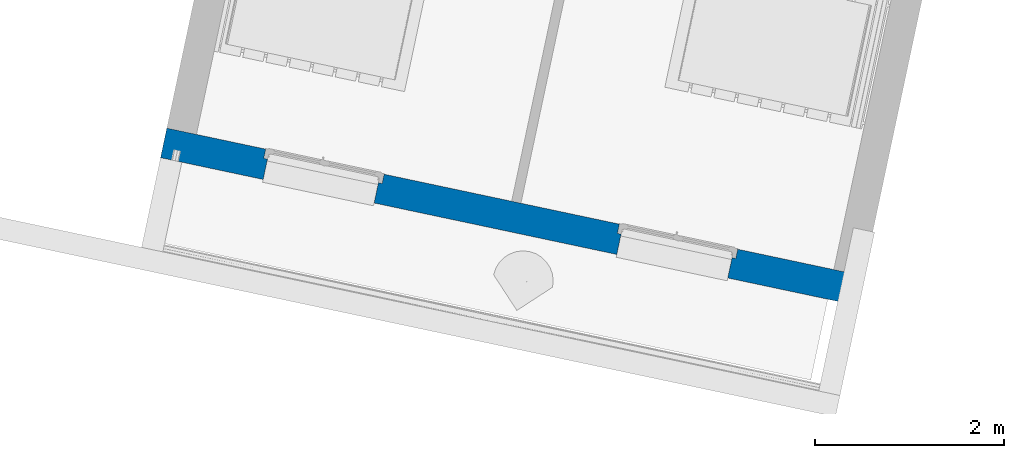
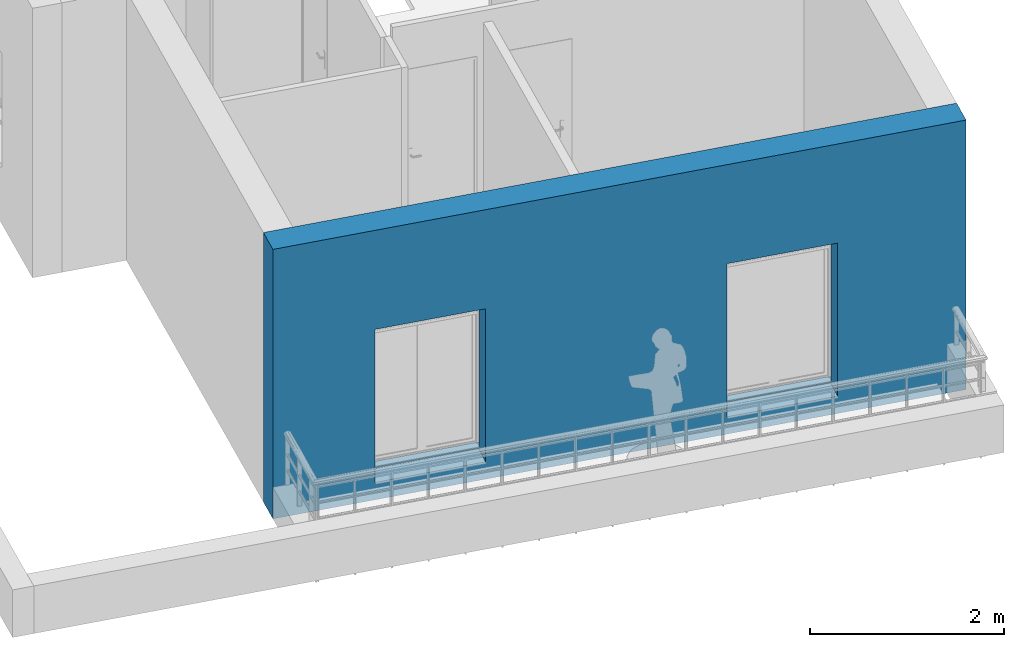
# One storey, part 2 of 18: 1 wall, 2 openings.
"""IFC2X3 building model written with IfcOpenShell, lengths in metres."""

from ifc_helpers import new_model, entity, si_unit, converted_unit, derived_unit, direction, frame, frame_2d, origin, place, context, subcontext, project, spatial, rectangle, extrude, faceted_brep, material, layer, layer_set, layer_usage, type_object, element, save


model = new_model("IFC2X3")

# Units and contexts
model_context = context("Model", 3, precision=1e-05, world=origin(), true_north=direction((6.12303176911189e-17, 1.0)))
body_context = subcontext(model_context, "Body", "Model", "MODEL_VIEW")
ifc_project = project(units=[si_unit("LENGTHUNIT", "METRE"), si_unit("AREAUNIT", "SQUARE_METRE"), si_unit("VOLUMEUNIT", "CUBIC_METRE"), converted_unit("PLANEANGLEUNIT", "DEGREE", entity("IfcRatioMeasure", 0.0174532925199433), si_unit("PLANEANGLEUNIT", "RADIAN"), dimensions=[0, 0, 0, 0, 0, 0, 0]), si_unit("MASSUNIT", "GRAM", prefix="KILO"), derived_unit("MASSDENSITYUNIT", [(si_unit("MASSUNIT", "GRAM", prefix="KILO"), 1), (si_unit("LENGTHUNIT", "METRE"), -3)]), si_unit("TIMEUNIT", "SECOND"), si_unit("FREQUENCYUNIT", "HERTZ"), si_unit("THERMODYNAMICTEMPERATUREUNIT", "DEGREE_CELSIUS"), derived_unit("THERMALTRANSMITTANCEUNIT", [(si_unit("MASSUNIT", "GRAM", prefix="KILO"), 1), (si_unit("THERMODYNAMICTEMPERATUREUNIT", "KELVIN"), -1), (si_unit("TIMEUNIT", "SECOND"), -3)]), derived_unit("VOLUMETRICFLOWRATEUNIT", [(si_unit("LENGTHUNIT", "METRE"), 3), (si_unit("TIMEUNIT", "SECOND"), -1)]), si_unit("ELECTRICCURRENTUNIT", "AMPERE"), si_unit("ELECTRICVOLTAGEUNIT", "VOLT"), si_unit("POWERUNIT", "WATT"), si_unit("FORCEUNIT", "NEWTON", prefix="KILO"), si_unit("ILLUMINANCEUNIT", "LUX"), si_unit("LUMINOUSFLUXUNIT", "LUMEN"), si_unit("LUMINOUSINTENSITYUNIT", "CANDELA"), derived_unit("USERDEFINED", [(si_unit("MASSUNIT", "GRAM", prefix="KILO"), -1), (si_unit("LENGTHUNIT", "METRE"), -2), (si_unit("TIMEUNIT", "SECOND"), 3), (si_unit("LUMINOUSFLUXUNIT", "LUMEN"), 1)]), derived_unit("LINEARVELOCITYUNIT", [(si_unit("LENGTHUNIT", "METRE"), 1), (si_unit("TIMEUNIT", "SECOND"), -1)]), si_unit("PRESSUREUNIT", "PASCAL"), derived_unit("USERDEFINED", [(si_unit("LENGTHUNIT", "METRE"), -2), (si_unit("MASSUNIT", "GRAM", prefix="KILO"), 1), (si_unit("TIMEUNIT", "SECOND"), -2)])], contexts=[model_context])

# Site, building, storey
site_placement = place(None, origin())
site = spatial("IfcSite", under=ifc_project, at=site_placement, Name="Default", CompositionType="ELEMENT")
building_placement = place(site_placement, origin())
building = spatial("IfcBuilding", under=site, at=building_placement, CompositionType="ELEMENT")
storey_placement = place(building_placement, frame((0.0, 0.0, 2.8)))
storey = spatial("IfcBuildingStorey", under=building, at=storey_placement, Name="ETAGE", CompositionType="ELEMENT", Elevation=2.8)

# Wall, openings
ifc_material_1 = material(Name="Enduit blanc cassé2")
ifc_layer_1 = layer(ifc_material_1, 0.02)
ifc_material_2 = material(Name="Parpaing")
ifc_layer_2 = layer(ifc_material_2, 0.2)
ifc_material_3 = material(Name="Isolant")
ifc_layer_3 = layer(ifc_material_3, 0.1)
ifc_layer_set = layer_set([ifc_layer_1, ifc_layer_2, ifc_layer_3], Name="Mur de base:Ext. Parpaing 20 + Isolant 10 enduit blanc cassé")
ifc_layer_usage = layer_usage(ifc_layer_set, "AXIS2", "NEGATIVE", 0.16)
wall_type = type_object("IfcWallType", Name="Mur de base:Ext. Parpaing 20 + Isolant 10 enduit blanc cassé", PredefinedType="STANDARD", material=ifc_layer_set)
wall_placement = place(storey_placement, frame((-11.6112023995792, 74.1547855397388, 0.0), z_axis=(0.0, 0.0, 1.0), x_axis=(-0.978238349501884, 0.207484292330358, 0.0)))
wall = element("IfcWallStandardCase", 1, at=wall_placement, inside=storey, type_object=wall_type, material=ifc_layer_usage, Name="Mur de base:Ext. Parpaing 20 + Isolant 10 enduit blanc cassé", ObjectType="Mur de base:Ext. Parpaing 20 + Isolant 10 enduit blanc cassé", context=body_context, shape_type="SweptSolid", body=[
    extrude(rectangle(XDim=7.53521205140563, YDim=0.319999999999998, at=frame_2d((3.76760602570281, 3.31679128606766e-15), x_axis=(-1.0, 0.0))), origin(), (0.0, 0.0, 1.0), 3.4),
])
opening_1_placement = place(wall_placement, frame((6.37355237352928, 0.743562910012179, 0.216120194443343), z_axis=(0.0, 0.0, 1.0), x_axis=(-0.978238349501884, -0.207484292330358, 0.0)))
element("IfcOpeningElement", 2, at=opening_1_placement, cuts=wall, Name="Mur de base:Ext. Parpaing 20 + Isolant 10 enduit blanc cassé", ObjectType="Opening", context=body_context, shape_type="Brep", body=[
    faceted_brep([(0.207484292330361, 1.22721950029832, 1.93387980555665), (1.38137031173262, 0.978238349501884, 1.93387980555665), (1.38137031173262, 0.978238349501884, 0.0338798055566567), (0.207484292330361, 1.22721950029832, 0.0338798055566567), (0.0, 0.248981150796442, 1.93387980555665), (0.0, 0.248981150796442, 0.0338798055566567), (1.17388601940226, 0.0, 0.0338798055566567), (1.17388601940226, 0.0, 1.93387980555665), (0.139636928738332, 0.907335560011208, 1.93387980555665), (1.31352294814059, 0.658354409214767, 1.93387980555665), (1.31352294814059, 0.658354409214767, 0.0338798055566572), (1.35265248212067, 0.650055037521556, 0.0338798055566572), (1.32920675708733, 0.53951410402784, 0.0338798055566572), (1.29007722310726, 0.54781347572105, 0.0338798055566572), (1.29049219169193, 0.549769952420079, 0.0338798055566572), (0.116606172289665, 0.798751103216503, 0.0338798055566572), (0.116191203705, 0.796794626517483, 0.0338798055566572), (0.0770616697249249, 0.805093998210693, 0.0338798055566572), (0.100507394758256, 0.91563493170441, 0.0338798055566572), (0.139636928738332, 0.907335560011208, 0.0338798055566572), (0.100507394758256, 0.915634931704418, 1.97387980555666), (1.35265248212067, 0.650055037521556, 1.97387980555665), (1.32920675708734, 0.53951410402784, 1.97387980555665), (1.33898914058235, 0.537439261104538, 1.97387980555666), (1.33898914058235, 0.537439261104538, 2.15387980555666), (0.0672792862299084, 0.807168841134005, 2.15387980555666), (0.0672792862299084, 0.807168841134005, 1.97387980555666), (0.0770616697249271, 0.805093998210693, 1.97387980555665), (0.116191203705, 0.796794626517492, 1.93387980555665), (1.29007722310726, 0.54781347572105, 1.93387980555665), (1.36658455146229, 0.667544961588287, 2.15387980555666), (1.36658455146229, 0.667544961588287, 1.97387980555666), (0.0948746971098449, 0.937274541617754, 2.15387980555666), (0.0948746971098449, 0.937274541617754, 1.97387980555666), (1.29049219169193, 0.549769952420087, 0.0220471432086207), (0.116606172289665, 0.798751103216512, 0.0220471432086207), (1.23820615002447, 0.303253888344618, 0.0338798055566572), (0.0643201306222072, 0.552235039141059, 0.0338798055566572), (0.0643201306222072, 0.552235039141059, 0.0), (1.23820615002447, 0.303253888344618, 0.0)], [[[0, 1, 2, 3]], [[4, 5, 6, 7]], [[0, 8, 9, 1]], [[1, 9, 10, 2]], [[2, 10, 11, 12, 13, 14, 15, 16, 17, 18, 19, 3]], [[3, 19, 8, 0]], [[10, 9, 8, 19, 18, 20, 21, 11]], [[11, 21, 22, 12]], [[12, 22, 23, 24, 25, 26, 27, 17, 16, 28, 29, 13]], [[18, 17, 27, 20]], [[30, 24, 23, 31]], [[32, 33, 26, 25]], [[30, 32, 25, 24]], [[23, 22, 21, 20, 27, 26, 33, 31]], [[31, 33, 32, 30]], [[34, 35, 15, 14]], [[36, 37, 38, 39]], [[39, 38, 35, 34]], [[4, 28, 16, 15, 35, 38, 37, 5]], [[5, 37, 36, 6]], [[6, 36, 39, 34, 14, 13, 29, 7]], [[7, 29, 28, 4]]]),
])
opening_2_placement = place(wall_placement, frame((2.5483403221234, 0.74356291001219, 0.216120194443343), z_axis=(0.0, 0.0, 1.0), x_axis=(-0.978238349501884, -0.207484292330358, 0.0)))
element("IfcOpeningElement", 3, at=opening_2_placement, cuts=wall, Name="Mur de base:Ext. Parpaing 20 + Isolant 10 enduit blanc cassé", ObjectType="Opening", context=body_context, shape_type="Brep", body=[
    faceted_brep([(0.207484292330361, 1.22721950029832, 1.93387980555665), (1.38137031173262, 0.978238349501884, 1.93387980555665), (1.38137031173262, 0.978238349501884, 0.0338798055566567), (0.207484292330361, 1.22721950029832, 0.0338798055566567), (0.0, 0.248981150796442, 1.93387980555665), (0.0, 0.248981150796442, 0.0338798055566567), (1.17388601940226, 0.0, 0.0338798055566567), (1.17388601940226, 0.0, 1.93387980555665), (0.139636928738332, 0.907335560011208, 1.93387980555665), (1.31352294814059, 0.658354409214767, 1.93387980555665), (1.31352294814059, 0.658354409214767, 0.0338798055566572), (1.35265248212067, 0.650055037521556, 0.0338798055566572), (1.32920675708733, 0.53951410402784, 0.0338798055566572), (1.29007722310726, 0.54781347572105, 0.0338798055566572), (1.29049219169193, 0.549769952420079, 0.0338798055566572), (0.116606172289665, 0.798751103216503, 0.0338798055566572), (0.116191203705, 0.796794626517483, 0.0338798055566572), (0.0770616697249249, 0.805093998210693, 0.0338798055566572), (0.100507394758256, 0.91563493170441, 0.0338798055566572), (0.139636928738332, 0.907335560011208, 0.0338798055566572), (0.100507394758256, 0.915634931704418, 1.97387980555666), (1.35265248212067, 0.650055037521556, 1.97387980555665), (1.32920675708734, 0.53951410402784, 1.97387980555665), (1.33898914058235, 0.537439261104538, 1.97387980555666), (1.33898914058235, 0.537439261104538, 2.15387980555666), (0.0672792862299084, 0.807168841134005, 2.15387980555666), (0.0672792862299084, 0.807168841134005, 1.97387980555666), (0.0770616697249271, 0.805093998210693, 1.97387980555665), (0.116191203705, 0.796794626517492, 1.93387980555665), (1.29007722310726, 0.54781347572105, 1.93387980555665), (1.36658455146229, 0.667544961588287, 2.15387980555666), (1.36658455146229, 0.667544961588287, 1.97387980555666), (0.0948746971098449, 0.937274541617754, 2.15387980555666), (0.0948746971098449, 0.937274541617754, 1.97387980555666), (1.29049219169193, 0.549769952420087, 0.0220471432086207), (0.116606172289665, 0.798751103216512, 0.0220471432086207), (1.23820615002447, 0.303253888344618, 0.0338798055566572), (0.0643201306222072, 0.552235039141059, 0.0338798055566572), (0.0643201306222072, 0.552235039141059, 0.0), (1.23820615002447, 0.303253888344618, 0.0)], [[[0, 1, 2, 3]], [[4, 5, 6, 7]], [[0, 8, 9, 1]], [[1, 9, 10, 2]], [[2, 10, 11, 12, 13, 14, 15, 16, 17, 18, 19, 3]], [[3, 19, 8, 0]], [[10, 9, 8, 19, 18, 20, 21, 11]], [[11, 21, 22, 12]], [[12, 22, 23, 24, 25, 26, 27, 17, 16, 28, 29, 13]], [[18, 17, 27, 20]], [[30, 24, 23, 31]], [[32, 33, 26, 25]], [[30, 32, 25, 24]], [[23, 22, 21, 20, 27, 26, 33, 31]], [[31, 33, 32, 30]], [[34, 35, 15, 14]], [[36, 37, 38, 39]], [[39, 38, 35, 34]], [[4, 28, 16, 15, 35, 38, 37, 5]], [[5, 37, 36, 6]], [[6, 36, 39, 34, 14, 13, 29, 7]], [[7, 29, 28, 4]]]),
])

save(model, "model.ifc")
